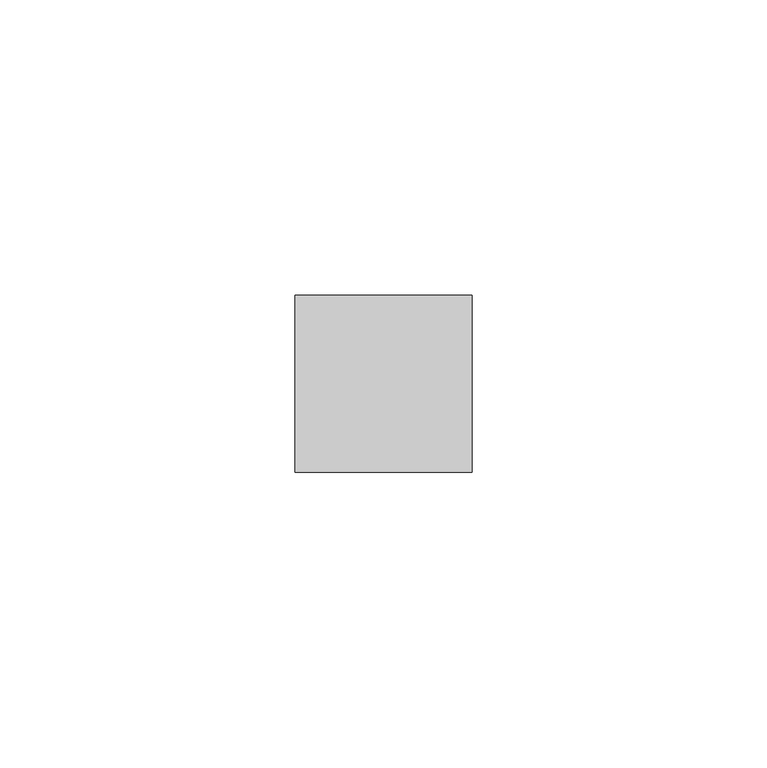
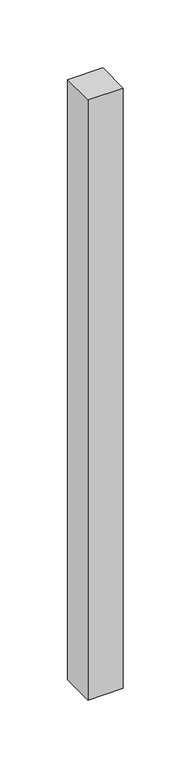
"""IFC4 building model written with IfcOpenShell, lengths in millimetres: member geometry, 矩形竖梃 : 30mm 正方形."""

from ifc_helpers import new_model, si_unit, frame, origin, place, context, project, spatial, polyline, outline, extrude, source, transform, mapped, element, save


def member_4fba57e3(model_context):
    return source(origin(), model_context, "Body", "SweptSolid", [
        extrude(outline(polyline([(0.0, 15.0), (0.0, -15.0), (-30.0, -15.0), (-30.0, 15.0), (0.0, 15.0)])), frame((0.0, 0.0, -540.0), z_axis=(0.0, 0.0, 1.0), x_axis=(1.0, 0.0, 0.0)), (0.0, 0.0, 1.0), 540.0),
    ])


if __name__ == "__main__":
    model = new_model("IFC4")
    model_context = context("Model", 3, world=origin())
    ifc_project = project(units=[si_unit("LENGTHUNIT", "METRE", prefix="MILLI")], contexts=[model_context])
    site = spatial("IfcSite", under=ifc_project)
    building = spatial("IfcBuilding", under=site)
    placement = place(None, origin())
    member_shape = member_4fba57e3(model_context)
    element("IfcMember", 1, ObjectType="矩形竖梃 : 30mm 正方形", at=placement, inside=building, context=model_context, shape_type="MappedRepresentation", body=[
        mapped(member_shape, transform((0.0, 0.0, 0.0), x_axis=(1.0, 0.0, 0.0), y_axis=(0.0, 1.0, 0.0), z_axis=(0.0, 0.0, 1.0))),
    ])
    save(model, "model.ifc")
